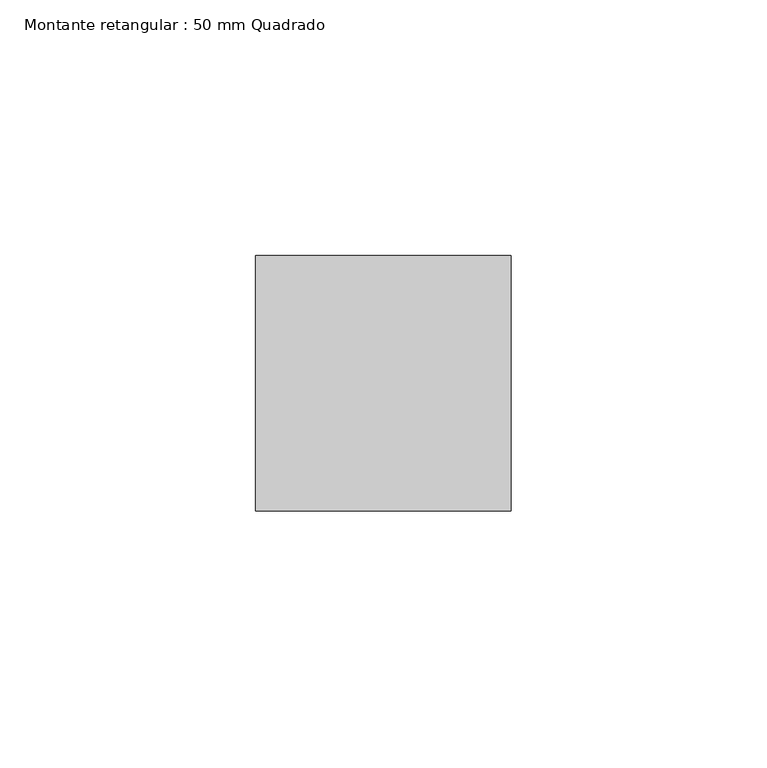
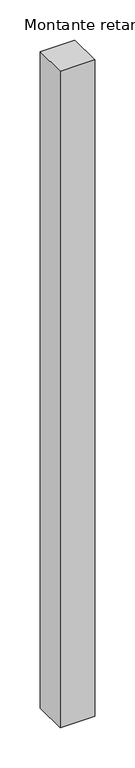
"""IFC4 building model written with IfcOpenShell, lengths in millimetres: member geometry, Montante retangular : 50 mm Quadrado."""

from ifc_helpers import new_model, si_unit, frame, origin, place, context, project, spatial, polyline, outline, extrude, source, transform, mapped, element, save


def montante_retangular_50_mm_quadrado_84e40a56(model_context):
    return source(origin(), model_context, "Body", "SweptSolid", [
        extrude(outline(polyline([(25.0, 25.0), (25.0, -25.0), (-25.0, -25.0), (-25.0, 25.0), (25.0, 25.0)])), frame((0.0, 0.0, -1000.0), z_axis=(0.0, 0.0, 1.0), x_axis=(1.0, 0.0, 0.0)), (0.0, 0.0, 1.0), 1000.0),
    ])


if __name__ == "__main__":
    model = new_model("IFC4")
    model_context = context("Model", 3, world=origin())
    ifc_project = project(units=[si_unit("LENGTHUNIT", "METRE", prefix="MILLI")], contexts=[model_context])
    site = spatial("IfcSite", under=ifc_project)
    building = spatial("IfcBuilding", under=site)
    placement = place(None, origin())
    montante_retangular_50_mm_quadrado_shape = montante_retangular_50_mm_quadrado_84e40a56(model_context)
    element("IfcMember", 1, ObjectType="Montante retangular : 50 mm Quadrado", at=placement, inside=building, context=model_context, shape_type="MappedRepresentation", body=[
        mapped(montante_retangular_50_mm_quadrado_shape, transform((0.0, 0.0, 0.0), x_axis=(1.0, 0.0, 0.0), y_axis=(0.0, 1.0, 0.0), z_axis=(0.0, 0.0, 1.0))),
    ])
    save(model, "model.ifc")
